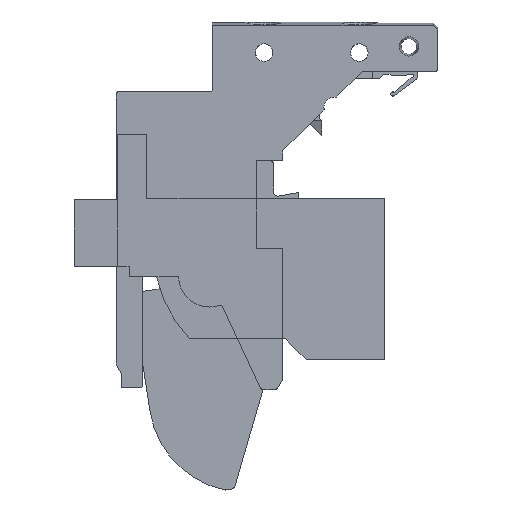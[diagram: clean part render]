
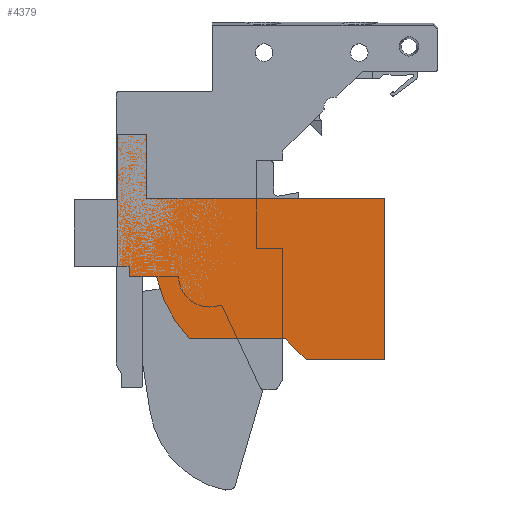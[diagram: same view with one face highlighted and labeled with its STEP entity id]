
A CAD part, front view. The second image highlights one B-rep face of the part: STEP entity #4379.
In plain terms, the highlighted planar face has unit normal (0, -1, 0).
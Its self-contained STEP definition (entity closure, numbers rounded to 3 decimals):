
#13 = LINE ( 'NONE', #5510, #3521 ) ;
#47 = EDGE_CURVE ( 'NONE', #5710, #6074, #3222, .T. ) ;
#259 = EDGE_CURVE ( 'NONE', #7333, #5520, #8527, .T. ) ;
#359 = ORIENTED_EDGE ( 'NONE', *, *, #860, .F. ) ;
#435 = VERTEX_POINT ( 'NONE', #5799 ) ;
#539 = LINE ( 'NONE', #3385, #4512 ) ;
#678 = VECTOR ( 'NONE', #4010, 1000. ) ;
#767 = VERTEX_POINT ( 'NONE', #2644 ) ;
#787 = CARTESIAN_POINT ( 'NONE',  ( -56.91, 9.5, -17.12 ) ) ;
#860 = EDGE_CURVE ( 'NONE', #4143, #6301, #7901, .T. ) ;
#1284 = LINE ( 'NONE', #8657, #7766 ) ;
#1292 = CARTESIAN_POINT ( 'NONE',  ( -98.55, 9.5, -22.005 ) ) ;
#1316 = VECTOR ( 'NONE', #3645, 1000. ) ;
#1363 = LINE ( 'NONE', #7362, #5538 ) ;
#1405 = ORIENTED_EDGE ( 'NONE', *, *, #3639, .F. ) ;
#1598 = ORIENTED_EDGE ( 'NONE', *, *, #259, .F. ) ;
#1604 = EDGE_CURVE ( 'NONE', #5520, #6767, #3045, .T. ) ;
#1624 = EDGE_CURVE ( 'NONE', #7838, #767, #5824, .T. ) ;
#1655 = LINE ( 'NONE', #6354, #1808 ) ;
#1808 = VECTOR ( 'NONE', #5012, 1000. ) ;
#1925 = DIRECTION ( 'NONE',  ( -1., 0., 0. ) ) ;
#2102 = LINE ( 'NONE', #1292, #678 ) ;
#2214 = DIRECTION ( 'NONE',  ( 0., 0., -1. ) ) ;
#2252 = CARTESIAN_POINT ( 'NONE',  ( -95.65, 9.5, -24.605 ) ) ;
#2262 = VECTOR ( 'NONE', #4572, 1000. ) ;
#2349 = EDGE_CURVE ( 'NONE', #6074, #7838, #1655, .T. ) ;
#2460 = FACE_OUTER_BOUND ( 'NONE', #7875, .T. ) ;
#2472 = CARTESIAN_POINT ( 'NONE',  ( -89.05, 9.5, -24.605 ) ) ;
#2612 = VERTEX_POINT ( 'NONE', #8665 ) ;
#2644 = CARTESIAN_POINT ( 'NONE',  ( -98.55, 9.5, -22.005 ) ) ;
#2687 = EDGE_CURVE ( 'NONE', #2612, #767, #2102, .T. ) ;
#2698 = CARTESIAN_POINT ( 'NONE',  ( -98.55, 9.5, 9.895 ) ) ;
#2746 = DIRECTION ( 'NONE',  ( 1., 0., 0. ) ) ;
#2756 = ORIENTED_EDGE ( 'NONE', *, *, #3867, .F. ) ;
#2827 = CARTESIAN_POINT ( 'NONE',  ( -91.35, 9.5, 9.895 ) ) ;
#2930 = VECTOR ( 'NONE', #7163, 1000. ) ;
#2961 = VECTOR ( 'NONE', #5214, 1000. ) ;
#2976 = CARTESIAN_POINT ( 'NONE',  ( -98.55, 9.5, -39.605 ) ) ;
#3045 = LINE ( 'NONE', #7703, #3788 ) ;
#3086 = ORIENTED_EDGE ( 'NONE', *, *, #6011, .F. ) ;
#3222 = LINE ( 'NONE', #3892, #2262 ) ;
#3385 = CARTESIAN_POINT ( 'NONE',  ( -98.55, 9.5, -24.605 ) ) ;
#3521 = VECTOR ( 'NONE', #3983, 1000. ) ;
#3639 = EDGE_CURVE ( 'NONE', #4270, #2612, #13, .T. ) ;
#3645 = DIRECTION ( 'NONE',  ( -1., 0., 0. ) ) ;
#3788 = VECTOR ( 'NONE', #4316, 1000. ) ;
#3832 = CARTESIAN_POINT ( 'NONE',  ( -98.55, 9.5, -6.005 ) ) ;
#3867 = EDGE_CURVE ( 'NONE', #6767, #435, #1284, .T. ) ;
#3892 = CARTESIAN_POINT ( 'NONE',  ( -98.55, 9.5, 9.895 ) ) ;
#3983 = DIRECTION ( 'NONE',  ( 0., 0., 1. ) ) ;
#4010 = DIRECTION ( 'NONE',  ( -1., 0., 0. ) ) ;
#4023 = ORIENTED_EDGE ( 'NONE', *, *, #1624, .T. ) ;
#4143 = VERTEX_POINT ( 'NONE', #5847 ) ;
#4209 = EDGE_CURVE ( 'NONE', #5710, #4235, #6862, .T. ) ;
#4228 = AXIS2_PLACEMENT_3D ( 'NONE', #7121, #4528, #6450 ) ;
#4235 = VERTEX_POINT ( 'NONE', #7941 ) ;
#4262 = CARTESIAN_POINT ( 'NONE',  ( -33.85, 9.5, 9.895 ) ) ;
#4270 = VERTEX_POINT ( 'NONE', #2252 ) ;
#4316 = DIRECTION ( 'NONE',  ( -1., 0., 0. ) ) ;
#4348 = CARTESIAN_POINT ( 'NONE',  ( -33.85, 9.5, -5.605 ) ) ;
#4379 = ADVANCED_FACE ( 'NONE', ( #2460 ), #7792, .T. ) ;
#4512 = VECTOR ( 'NONE', #1925, 1000. ) ;
#4528 = DIRECTION ( 'NONE',  ( 0., -1., 0. ) ) ;
#4572 = DIRECTION ( 'NONE',  ( -1., 0., 0. ) ) ;
#4625 = ORIENTED_EDGE ( 'NONE', *, *, #1604, .F. ) ;
#4640 = LINE ( 'NONE', #2976, #1316 ) ;
#4758 = CARTESIAN_POINT ( 'NONE',  ( -33.85, 9.5, -44.605 ) ) ;
#4802 = EDGE_CURVE ( 'NONE', #6301, #4270, #539, .T. ) ;
#5012 = DIRECTION ( 'NONE',  ( 0., 0., -1. ) ) ;
#5057 = DIRECTION ( 'NONE',  ( 0., 0., -1. ) ) ;
#5155 = ORIENTED_EDGE ( 'NONE', *, *, #47, .T. ) ;
#5174 = ORIENTED_EDGE ( 'NONE', *, *, #2687, .F. ) ;
#5210 = VECTOR ( 'NONE', #5057, 1000. ) ;
#5214 = DIRECTION ( 'NONE',  ( 0., 0., -1. ) ) ;
#5309 = ORIENTED_EDGE ( 'NONE', *, *, #4802, .F. ) ;
#5480 = AXIS2_PLACEMENT_3D ( 'NONE', #787, #7576, #2214 ) ;
#5510 = CARTESIAN_POINT ( 'NONE',  ( -95.65, 9.5, 9.895 ) ) ;
#5520 = VERTEX_POINT ( 'NONE', #4758 ) ;
#5538 = VECTOR ( 'NONE', #2746, 1000. ) ;
#5710 = VERTEX_POINT ( 'NONE', #6082 ) ;
#5799 = CARTESIAN_POINT ( 'NONE',  ( -57.85, 9.5, -39.605 ) ) ;
#5824 = LINE ( 'NONE', #7291, #2930 ) ;
#5847 = CARTESIAN_POINT ( 'NONE',  ( -81.064, 9.5, -39.605 ) ) ;
#6011 = EDGE_CURVE ( 'NONE', #4235, #7333, #1363, .T. ) ;
#6029 = ORIENTED_EDGE ( 'NONE', *, *, #8013, .F. ) ;
#6074 = VERTEX_POINT ( 'NONE', #2698 ) ;
#6078 = DIRECTION ( 'NONE',  ( -0.707, 0., 0.707 ) ) ;
#6082 = CARTESIAN_POINT ( 'NONE',  ( -91.35, 9.5, 9.895 ) ) ;
#6301 = VERTEX_POINT ( 'NONE', #2472 ) ;
#6354 = CARTESIAN_POINT ( 'NONE',  ( -98.55, 9.5, 9.895 ) ) ;
#6450 = DIRECTION ( 'NONE',  ( 0., 0., -1. ) ) ;
#6767 = VERTEX_POINT ( 'NONE', #7709 ) ;
#6862 = LINE ( 'NONE', #2827, #2961 ) ;
#7121 = CARTESIAN_POINT ( 'NONE',  ( -98.55, 9.5, 9.895 ) ) ;
#7163 = DIRECTION ( 'NONE',  ( 0., 0., -1. ) ) ;
#7205 = ORIENTED_EDGE ( 'NONE', *, *, #2349, .T. ) ;
#7291 = CARTESIAN_POINT ( 'NONE',  ( -98.55, 9.5, 9.895 ) ) ;
#7333 = VERTEX_POINT ( 'NONE', #4348 ) ;
#7362 = CARTESIAN_POINT ( 'NONE',  ( -98.55, 9.5, -5.605 ) ) ;
#7576 = DIRECTION ( 'NONE',  ( 0., 1., 0. ) ) ;
#7703 = CARTESIAN_POINT ( 'NONE',  ( -98.55, 9.5, -44.605 ) ) ;
#7709 = CARTESIAN_POINT ( 'NONE',  ( -52.85, 9.5, -44.605 ) ) ;
#7766 = VECTOR ( 'NONE', #6078, 1000. ) ;
#7792 = PLANE ( 'NONE',  #4228 ) ;
#7838 = VERTEX_POINT ( 'NONE', #3832 ) ;
#7875 = EDGE_LOOP ( 'NONE', ( #5174, #1405, #5309, #359, #6029, #2756, #4625, #1598, #3086, #8605, #5155, #7205, #4023 ) ) ;
#7901 = CIRCLE ( 'NONE', #5480, 33. ) ;
#7941 = CARTESIAN_POINT ( 'NONE',  ( -91.35, 9.5, -5.605 ) ) ;
#8013 = EDGE_CURVE ( 'NONE', #435, #4143, #4640, .T. ) ;
#8527 = LINE ( 'NONE', #4262, #5210 ) ;
#8605 = ORIENTED_EDGE ( 'NONE', *, *, #4209, .F. ) ;
#8657 = CARTESIAN_POINT ( 'NONE',  ( -102.95, 9.5, 5.495 ) ) ;
#8665 = CARTESIAN_POINT ( 'NONE',  ( -95.65, 9.5, -22.005 ) ) ;
